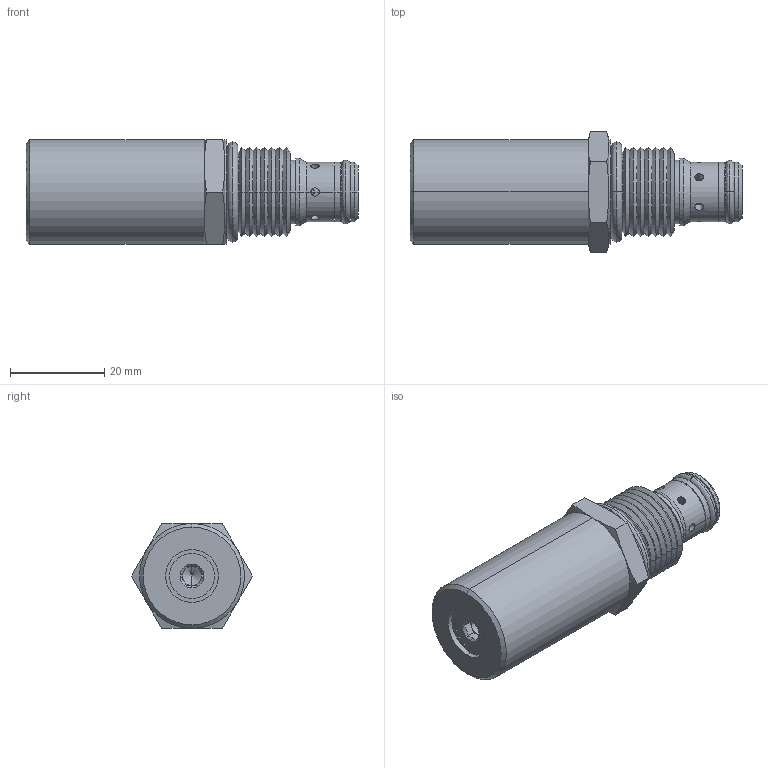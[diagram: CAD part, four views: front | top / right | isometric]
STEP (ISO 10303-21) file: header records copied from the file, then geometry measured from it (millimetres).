
FILE_DESCRIPTION((''),'2;1');
FILE_NAME('U:\Solid model CD\Solid model full\Mechanical\STEP\PBRWA0I-3D Full.stp','2008-07-29T09:53:45',('Dan'),(''),'Autodesk Inventor 9','Autodesk Inventor 9','');
FILE_SCHEMA(('AUTOMOTIVE_DESIGN { 1 0 10303 214 1 1 1 1 }'));
Length unit declared in the file: inch
Products named in the file (5): PBRWA0I-3D Full; PBRWA0I-3D Full1; PBRWA0I-3D Full2; PBRWA0I-3D Full3; PBRWA0I-3D Full4
Assembly tree (4 placements, depth 2):
  PBRWA0I-3D Full
    PBRWA0I-3D Full1
    PBRWA0I-3D Full2
    PBRWA0I-3D Full3
    PBRWA0I-3D Full4
Bounding box: 70.31 x 25.66 x 22.23 mm (x, y, z)
Volume: 21624.4 mm3; surface area: 6806.9 mm2
Topology: 4 solids, 4 shells, 139 faces, 319 edges, 191 vertices
Faces by surface type: cone 54, cylinder 44, plane 27, bspline 10, torus 4
Entity records: 4601 total; most frequent: CARTESIAN_POINT 1419, DIRECTION 654, ORIENTED_EDGE 634, EDGE_CURVE 317, AXIS2_PLACEMENT_3D 271, VERTEX_POINT 191, EDGE_LOOP 162, FACE_OUTER_BOUND 139
